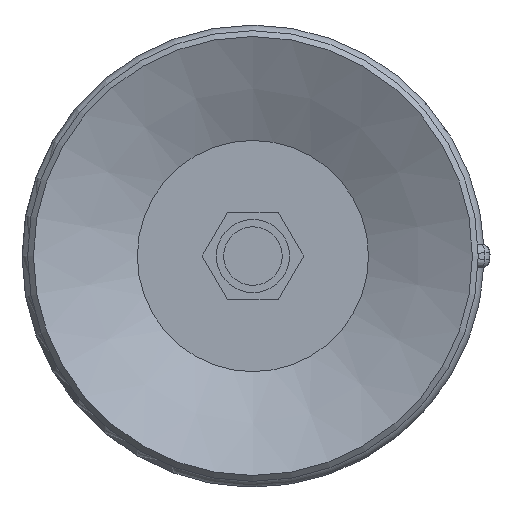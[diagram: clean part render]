
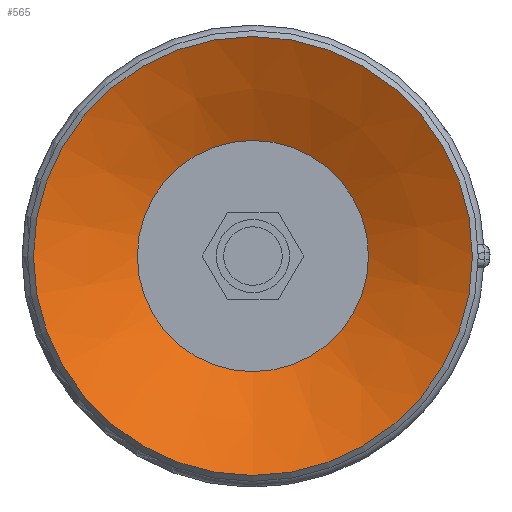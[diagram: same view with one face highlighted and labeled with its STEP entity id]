
A CAD part, front view. The second image highlights one B-rep face of the part: STEP entity #565.
In plain terms, the highlighted conical face has half-angle 64 degrees and reference radius 3.95 mm.
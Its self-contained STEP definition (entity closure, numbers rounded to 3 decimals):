
#565=ADVANCED_FACE('',(#851,#852),#853,.F.);
#851=FACE_BOUND('',#1257,.T.);
#852=FACE_OUTER_BOUND('',#1258,.T.);
#853=CONICAL_SURFACE('',#1259,3.95,1.117);
#1257=EDGE_LOOP('',(#2038));
#1258=EDGE_LOOP('',(#2039));
#1259=AXIS2_PLACEMENT_3D('',#2040,#2041,#2042);
#2038=ORIENTED_EDGE('',*,*,#2351,.F.);
#2039=ORIENTED_EDGE('',*,*,#2352,.T.);
#2040=CARTESIAN_POINT('',(0.0,-29.404,-47.168));
#2041=DIRECTION('',(-0.0,0.,1.0));
#2042=DIRECTION('',(0.0,-1.0,0.));
#2351=EDGE_CURVE('',#2721,#2721,#2722,.T.);
#2352=EDGE_CURVE('',#2723,#2723,#2724,.T.);
#2721=VERTEX_POINT('',#3504);
#2722=CIRCLE('',#3505,3.95);
#2723=VERTEX_POINT('',#3506);
#2724=CIRCLE('',#3507,7.5);
#3504=CARTESIAN_POINT('',(0.0,-33.354,-47.168));
#3505=AXIS2_PLACEMENT_3D('',#3862,#3863,#3864);
#3506=CARTESIAN_POINT('',(0.0,-36.904,-45.437));
#3507=AXIS2_PLACEMENT_3D('',#3865,#3866,#3867);
#3862=CARTESIAN_POINT('',(0.0,-29.404,-47.168));
#3863=DIRECTION('',(0.0,0.,1.0));
#3864=DIRECTION('',(0.0,-1.0,0.));
#3865=CARTESIAN_POINT('',(0.0,-29.404,-45.437));
#3866=DIRECTION('',(0.0,0.,1.0));
#3867=DIRECTION('',(0.0,-1.0,0.));
